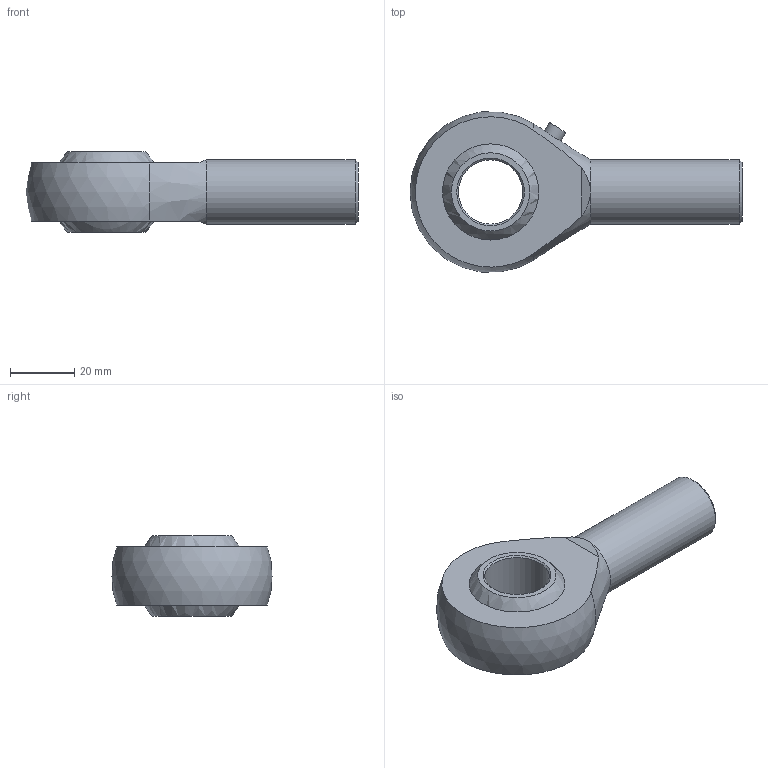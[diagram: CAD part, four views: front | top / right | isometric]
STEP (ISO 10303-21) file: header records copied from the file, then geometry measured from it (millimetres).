
FILE_DESCRIPTION (( 'STEP AP214' ), '1' );
FILE_NAME ('HL-3-003 5t.STEP', '2025-06-18T14:29:38', ( '' ), ( '' ), 'SwSTEP 2.0', 'SolidWorks 2023', '' );
FILE_SCHEMA (( 'AUTOMOTIVE_DESIGN' ));
Length unit declared in the file: millimetre
Products named in the file (4): Rod End GA 20 M 20x1.5(0)-1; HL-3-003 5t; FLURO_midpart; Rod End GA 20 M 20x1.5(12)-2
Assembly tree (2 placements, depth 2):
  HL-3-003 5t
    Rod End GA 20 M 20x1.5(0)-1
    Rod End GA 20 M 20x1.5(12)-2
  FLURO_midpart
Bounding box: 103 x 49.65 x 25 mm (x, y, z)
Volume: 47993.2 mm3; surface area: 15327.4 mm2
Topology: 2 solids, 2 shells, 24 faces, 51 edges, 33 vertices
Faces by surface type: plane 8, cone 7, cylinder 5, sphere 4
Full cylindrical faces by diameter (mm): 2 x1, 6 x1, 20 x2, 37.864 x1
Entity records: 948 total; most frequent: CARTESIAN_POINT 407, DIRECTION 100, ORIENTED_EDGE 70, AXIS2_PLACEMENT_3D 49, EDGE_LOOP 42, EDGE_CURVE 35, FACE_OUTER_BOUND 31, VERTEX_POINT 27
